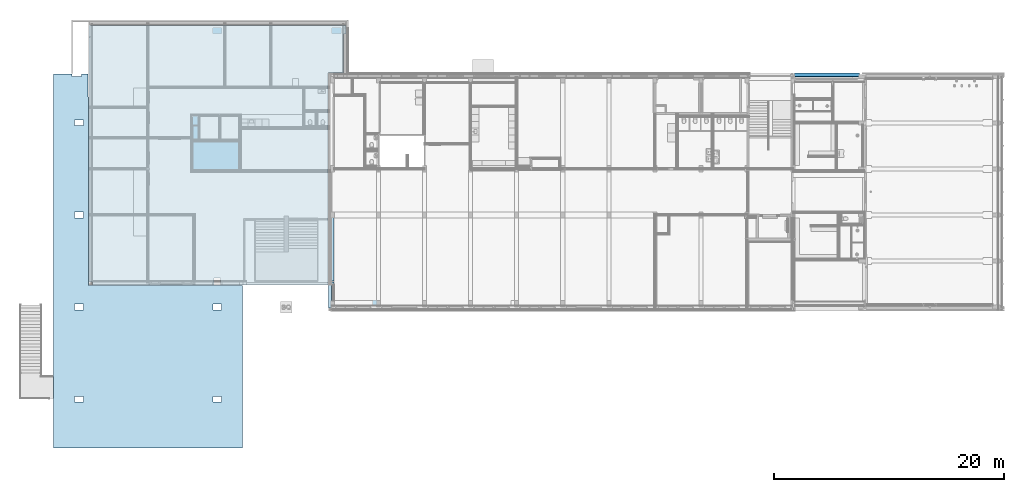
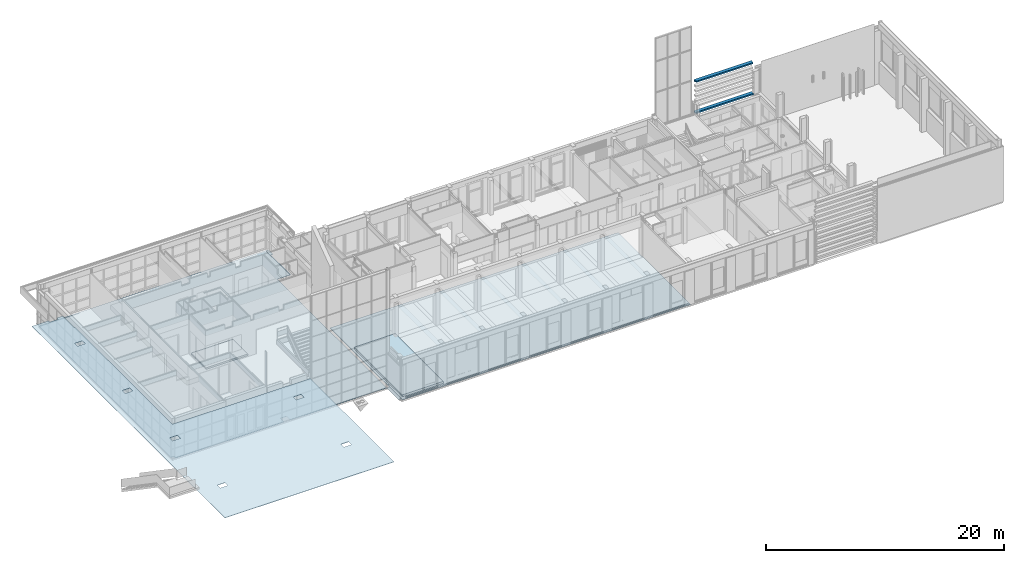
# One storey, part 13 of 109: 7 slabs, 2 beams.
"""IFC2X3 building model written with IfcOpenShell, lengths in millimetres."""

from ifc_helpers import new_model, entity, si_unit, converted_unit, derived_unit, money_unit, direction, frame, origin_with_axes, place, context, subcontext, project, spatial, faceted_brep, material, type_object, element, save


model = new_model("IFC2X3")

# Units and contexts
model_context = context("Model", 3, precision=0.01, world=origin_with_axes(), true_north=direction((0.0, 1.0)))
body_context = subcontext(model_context, "Body", "Model", "MODEL_VIEW")
ifc_project = project(units=[si_unit("LENGTHUNIT", "METRE", prefix="MILLI"), si_unit("AREAUNIT", "SQUARE_METRE"), si_unit("VOLUMEUNIT", "CUBIC_METRE"), converted_unit("PLANEANGLEUNIT", "DEGREE", entity("IfcPlaneAngleMeasure", 0.0174532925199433), si_unit("PLANEANGLEUNIT", "RADIAN"), dimensions=[0, 0, 0, 0, 0, 0, 0]), money_unit("EUR"), converted_unit("TIMEUNIT", "Year", entity("IfcTimeMeasure", 31557600.0), si_unit("TIMEUNIT", "SECOND"), dimensions=[0, 0, 1, 0, 0, 0, 0]), si_unit("MASSUNIT", "GRAM", prefix="KILO"), si_unit("THERMODYNAMICTEMPERATUREUNIT", "DEGREE_CELSIUS"), si_unit("LUMINOUSINTENSITYUNIT", "LUMEN"), si_unit("ENERGYUNIT", "JOULE", prefix="MEGA"), derived_unit("THERMALCONDUCTANCEUNIT", [(si_unit("POWERUNIT", "WATT"), 1), (si_unit("LENGTHUNIT", "METRE"), -1), (si_unit("THERMODYNAMICTEMPERATUREUNIT", "KELVIN"), -1)]), derived_unit("SPECIFICHEATCAPACITYUNIT", [(si_unit("ENERGYUNIT", "JOULE"), 1), (si_unit("MASSUNIT", "GRAM", prefix="KILO"), -1), (si_unit("THERMODYNAMICTEMPERATUREUNIT", "KELVIN"), -1)]), derived_unit("MASSDENSITYUNIT", [(si_unit("MASSUNIT", "GRAM", prefix="KILO"), 1), (si_unit("VOLUMEUNIT", "CUBIC_METRE"), -1)])], contexts=[model_context])

# Site, building, storey
site_placement = place(None, origin_with_axes())
site = spatial("IfcSite", under=ifc_project, at=site_placement, Name="<site naam>", CompositionType="ELEMENT")
building_placement = place(site_placement, origin_with_axes())
building = spatial("IfcBuilding", under=site, at=building_placement, Name="<Naam gebouw>", CompositionType="ELEMENT")
storey_placement = place(building_placement, origin_with_axes())
storey = spatial("IfcBuildingStorey", under=building, at=storey_placement, Name="00 Begane grond", CompositionType="ELEMENT", Elevation=0.0)

# Beams
ifc_material_1 = material(Name="beton")
beam_type = type_object("IfcBeamType", Name="beton 335 x 150", PredefinedType="BEAM")
beam_1_placement = place(storey_placement, frame((52105.00000000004, 20324.9999975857, 3000.0), z_axis=(0.0, 0.0, 1.0), x_axis=(0.0, -1.0, 0.0)))
element("IfcBeam", 1, at=beam_1_placement, inside=storey, type_object=beam_type, material=ifc_material_1, Name="41_Balk_beton", ObjectType="BEAM", context=body_context, shape_type="Brep", body=[
    faceted_brep([(0.0, 0.0, 149.9999999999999), (324.9999975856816, 0.0, 149.9999999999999), (324.9999975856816, 5640.499069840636, 149.9999999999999), (0.0, 5640.499069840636, 149.9999999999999), (0.0, 0.0, 0.0), (324.9999975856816, 0.0, 0.0), (324.9999975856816, 5640.499069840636, 0.0), (0.0, 5640.499069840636, 0.0)], [[[0, 1, 2, 3]], [[4, 5, 1, 0]], [[5, 6, 2, 1]], [[3, 2, 6, 7]], [[4, 0, 3, 7]], [[7, 6, 5, 4]]]),
])
beam_2_placement = place(storey_placement, frame((52105.00000000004, 20324.9999975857, 6187.5), z_axis=(0.0, 0.0, 1.0), x_axis=(0.0, -1.0, 0.0)))
element("IfcBeam", 2, at=beam_2_placement, inside=storey, type_object=beam_type, material=ifc_material_1, Name="41_Balk_beton", ObjectType="BEAM", context=body_context, shape_type="Brep", body=[
    faceted_brep([(217.3255014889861, 70.00002419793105, 150.0000000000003), (324.999975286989, 70.00002419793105, 150.0000000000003), (324.999975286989, 0.0, 150.0000000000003), (335.0000000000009, 0.0, 150.0000000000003), (335.0000000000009, 5570.0, 150.0000000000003), (59.99999758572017, 5570.0, 150.0000000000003), (59.99999758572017, 5640.499069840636, 150.0000000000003), (0.0, 5640.499069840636, 150.0000000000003), (0.0, 0.0, 150.0000000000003), (217.3255014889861, 0.0, 150.0000000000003), (324.999975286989, 70.00002419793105, 127.4999999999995), (217.3255014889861, 70.00002419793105, 0.0), (324.999975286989, 70.00002419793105, 0.0), (324.999975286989, 0.0, 127.4999999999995), (335.0000000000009, 0.0, 127.4999999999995), (335.0000000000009, 5570.0, 127.4999999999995), (324.9999975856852, 5570.0, 127.4999999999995), (324.9999975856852, 5570.0, 0.0), (59.99999758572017, 5570.0, 0.0), (59.99999758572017, 5640.499069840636, 0.0), (0.0, 5640.499069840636, 0.0), (0.0, 0.0, 0.0), (217.3255014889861, 0.0, 0.0)], [[[0, 1, 2, 3, 4, 5, 6, 7, 8, 9]], [[10, 1, 0, 11, 12]], [[13, 2, 1, 10]], [[3, 2, 13, 14]], [[4, 3, 14, 15]], [[4, 15, 16, 17, 18, 5]], [[6, 5, 18, 19]], [[19, 20, 7, 6]], [[7, 20, 21, 8]], [[21, 22, 9, 8]], [[11, 0, 9, 22]], [[12, 11, 22, 21, 20, 19, 18, 17]], [[16, 10, 12, 17]], [[14, 13, 10, 16, 15]]]),
])

# Slabs
ifc_material_2 = material(Name="Buitenplafond cf. K&M-staat")
slab_type_1 = type_object("IfcSlabType", Name="GA-11 40", PredefinedType="NOTDEFINED")
slab_1_placement = place(storey_placement, frame((-12215.0000024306, -12214.99009052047, 3560.000003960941), z_axis=(0.0, 0.0, 1.0), x_axis=(1.0, 0.0, 0.0)))
element("IfcSlab", 3, at=slab_1_placement, inside=storey, type_object=slab_type_1, material=ifc_material_2, Name="45_Vloer_GA-11", PredefinedType="NOTDEFINED", context=body_context, shape_type="Brep", body=[
    faceted_brep([(2980.000002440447, 32429.99009294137, 0.0), (2410.924631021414, 32429.99009294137, 0.0), (2410.924631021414, 32429.99009294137, 40.00000000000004), (2980.000002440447, 32429.99009294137, 40.00000000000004), (1610.924631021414, 32214.99009052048, 0.0), (2410.924631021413, 32214.99009052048, 0.0), (2986.61187938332, 30454.74443336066, 0.0), (3054.500002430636, 30454.97167998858, 0.0), (3054.500002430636, 19599.05475432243, 0.0), (3052.14067671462, 14094.99009052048, 0.0), (16430.04418767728, 14094.99009052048, 0.0), (16430.04418767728, 0.0, 0.0), (0.0, 0.0, 0.0), (0.0, 32429.99009294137, 0.0), (1610.924626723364, 32429.99009294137, 0.0), (1840.000002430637, 3964.990090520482, 0.0), (2590.000002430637, 3964.990090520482, 0.0), (2590.000002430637, 4464.990090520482, 0.0), (1840.000002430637, 4464.990090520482, 0.0), (14590.00000243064, 4464.990090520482, 0.0), (13840.00000243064, 4464.990090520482, 0.0), (13840.00000243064, 3964.990090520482, 0.0), (14590.00000243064, 3964.990090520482, 0.0), (13840.00000243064, 12464.99009052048, 0.0), (13840.00000243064, 11964.99009052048, 0.0), (14590.00000243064, 11964.99009052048, 0.0), (14590.00000243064, 12464.99009052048, 0.0), (2590.000002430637, 12464.99009052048, 0.0), (1840.000002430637, 12464.99009052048, 0.0), (1840.000002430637, 11964.99009052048, 0.0), (2590.000002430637, 11964.99009052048, 0.0), (2590.000002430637, 20464.99009052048, 0.0), (1840.000002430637, 20464.99009052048, 0.0), (1840.000002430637, 19964.99009052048, 0.0), (2590.000002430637, 19964.99009052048, 0.0), (2590.000002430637, 28464.99009052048, 0.0), (1840.000002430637, 28464.99009052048, 0.0), (1840.000002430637, 27964.99009052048, 0.0), (2590.000002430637, 27964.99009052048, 0.0), (2410.924631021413, 32214.99009052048, 40.00000000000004), (1610.924631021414, 32214.99009052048, 40.00000000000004), (1610.924626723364, 32429.99009294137, 40.00000000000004), (0.0, 32429.99009294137, 40.00000000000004), (0.0, 0.0, 40.00000000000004), (16430.04418767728, 0.0, 40.00000000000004), (16430.04418767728, 14094.99009052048, 40.00000000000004), (3052.14067671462, 14094.99009052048, 40.00000000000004), (3054.500002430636, 19599.05475432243, 40.00000000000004), (3054.500002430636, 30454.97167998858, 40.00000000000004), (2986.61187938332, 30454.74443336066, 40.00000000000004), (2590.000002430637, 4464.990090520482, 40.00000000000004), (2590.000002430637, 3964.990090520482, 40.00000000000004), (1840.000002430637, 3964.990090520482, 40.00000000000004), (1840.000002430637, 4464.990090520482, 40.00000000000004), (13840.00000243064, 3964.990090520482, 40.00000000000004), (13840.00000243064, 4464.990090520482, 40.00000000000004), (14590.00000243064, 4464.990090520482, 40.00000000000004), (14590.00000243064, 3964.990090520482, 40.00000000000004), (14590.00000243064, 11964.99009052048, 40.00000000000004), (13840.00000243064, 11964.99009052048, 40.00000000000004), (13840.00000243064, 12464.99009052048, 40.00000000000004), (14590.00000243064, 12464.99009052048, 40.00000000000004), (1840.000002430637, 11964.99009052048, 40.00000000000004), (1840.000002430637, 12464.99009052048, 40.00000000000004), (2590.000002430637, 12464.99009052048, 40.00000000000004), (2590.000002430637, 11964.99009052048, 40.00000000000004), (1840.000002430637, 19964.99009052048, 40.00000000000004), (1840.000002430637, 20464.99009052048, 40.00000000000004), (2590.000002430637, 20464.99009052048, 40.00000000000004), (2590.000002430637, 19964.99009052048, 40.00000000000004), (1840.000002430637, 27964.99009052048, 40.00000000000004), (1840.000002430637, 28464.99009052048, 40.00000000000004), (2590.000002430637, 28464.99009052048, 40.00000000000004), (2590.000002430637, 27964.99009052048, 40.00000000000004)], [[[0, 1, 2, 3]], [[4, 5, 1, 0, 6, 7, 8, 9, 10, 11, 12, 13, 14], [15, 16, 17, 18], [19, 20, 21, 22], [23, 24, 25, 26], [27, 28, 29, 30], [31, 32, 33, 34], [35, 36, 37, 38]], [[5, 39, 2, 1]], [[39, 40, 41, 42, 43, 44, 45, 46, 47, 48, 49, 3, 2], [50, 51, 52, 53], [54, 55, 56, 57], [58, 59, 60, 61], [62, 63, 64, 65], [66, 67, 68, 69], [70, 71, 72, 73]], [[0, 3, 49, 6]], [[4, 40, 39, 5]], [[6, 49, 48, 7]], [[47, 8, 7, 48]], [[46, 9, 8, 47]], [[9, 46, 45, 10]], [[10, 45, 44, 11]], [[11, 44, 43, 12]], [[12, 43, 42, 13]], [[42, 41, 14, 13]], [[4, 14, 41, 40]], [[15, 52, 51, 16]], [[16, 51, 50, 17]], [[17, 50, 53, 18]], [[18, 53, 52, 15]], [[19, 56, 55, 20]], [[20, 55, 54, 21]], [[21, 54, 57, 22]], [[22, 57, 56, 19]], [[23, 60, 59, 24]], [[24, 59, 58, 25]], [[25, 58, 61, 26]], [[26, 61, 60, 23]], [[27, 64, 63, 28]], [[28, 63, 62, 29]], [[29, 62, 65, 30]], [[30, 65, 64, 27]], [[31, 68, 67, 32]], [[32, 67, 66, 33]], [[33, 66, 69, 34]], [[34, 69, 68, 31]], [[35, 72, 71, 36]], [[36, 71, 70, 37]], [[37, 70, 73, 38]], [[38, 73, 72, 35]]]),
])
slab_type_2 = type_object("IfcSlabType", Name="beton 30", PredefinedType="NOTDEFINED")
slab_2_placement = place(storey_placement, frame((11665.00000000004, 1930.00000000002, -30.0), z_axis=(0.0, 0.0, 1.0), x_axis=(1.0, 0.0, 0.0)))
element("IfcSlab", 4, at=slab_2_placement, inside=storey, type_object=slab_type_2, material=ifc_material_1, Name="23_Vloer_beton", PredefinedType="NOTDEFINED", context=body_context, shape_type="Brep", body=[
    faceted_brep([(0.0, -1995.000000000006, 30.0), (0.0, 0.0, 30.0), (0.0, 0.0, 0.0), (0.0, -1995.000000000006, 0.0), (269.999999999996, -1995.000000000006, 30.0), (269.999999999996, 0.0, 30.0), (269.999999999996, 0.0, 0.0), (269.999999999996, -1995.000000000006, 0.0)], [[[0, 1, 2, 3]], [[4, 5, 1, 0]], [[1, 5, 6, 2]], [[7, 3, 2, 6]], [[4, 0, 3, 7]], [[5, 4, 7, 6]]]),
])
slab_3_placement = place(storey_placement, frame((-9154.999999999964, 1930.00656230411, -30.0), z_axis=(0.0, 0.0, 1.0), x_axis=(1.0, 0.0, 0.0)))
element("IfcSlab", 5, at=slab_3_placement, inside=storey, type_object=slab_type_2, material=ifc_material_1, Name="23_Vloer_beton", PredefinedType="NOTDEFINED", context=body_context, shape_type="Brep", body=[
    faceted_brep([(0.0, 255.6670059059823, 30.0), (305.0000006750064, 255.6670058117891, 30.0), (305.0000005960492, 0.0, 30.0), (10854.9999995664, 0.0, 30.0), (10854.99999945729, 594.993437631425, 30.0), (11454.99999945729, 594.9934377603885, 30.0), (11454.99999958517, 0.0, 30.0), (20769.99999903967, 0.0, 30.0), (20769.99999903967, 18404.99999999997, 30.0), (22130.00000000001, 18404.99999999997, 30.0), (22130.00000000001, 21769.9934376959, 30.0), (22330.00000000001, 21769.9934376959, 30.0), (22330.00000000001, 22520.0, 30.0), (0.0, 22519.9934376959, 30.0), (305.0000006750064, 255.6670058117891, 0.0), (0.0, 255.6670059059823, 0.0), (305.0000005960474, 0.0, 0.0), (10854.9999994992, 0.0, 0.0), (10854.99999945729, 594.993437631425, 0.0), (11454.99999945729, 594.9934377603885, 0.0), (11454.99999958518, 0.0, 0.0), (20769.99999903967, 0.0, 0.0), (20769.99999903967, 18404.99999999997, 0.0), (22130.00000000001, 18404.99999999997, 0.0), (22130.00000000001, 21769.9934376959, 0.0), (22330.00000000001, 21769.9934376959, 0.0), (22330.00000000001, 22520.0, 0.0), (0.0, 22519.9934376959, 0.0)], [[[0, 1, 2, 3, 4, 5, 6, 7, 8, 9, 10, 11, 12, 13]], [[14, 1, 0, 15]], [[16, 2, 1, 14]], [[3, 2, 16, 17]], [[18, 4, 3, 17]], [[19, 5, 4, 18]], [[20, 6, 5, 19]], [[7, 6, 20, 21]], [[8, 7, 21, 22]], [[9, 8, 22, 23]], [[10, 9, 23, 24]], [[11, 10, 24, 25]], [[12, 11, 25, 26]], [[13, 12, 26, 27]], [[27, 15, 0, 13]], [[16, 14, 15, 27, 26, 25, 24, 23, 22, 21, 20, 19, 18, 17]]]),
])
slab_4_placement = place(storey_placement, frame((-9154.99999999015, 1930.000000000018, -30.0), z_axis=(0.0, 0.0, 1.0), x_axis=(1.0, 0.0, 0.0)))
element("IfcSlab", 6, at=slab_4_placement, inside=storey, type_object=slab_type_2, material=ifc_material_1, Name="23_Vloer_beton", PredefinedType="NOTDEFINED", context=body_context, shape_type="Brep", body=[
    faceted_brep([(0.0, 255.6735682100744, 30.0), (305.000000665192, 255.6735681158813, 30.0), (305.0000005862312, 0.0, 30.0), (10854.99999955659, 0.0, 30.0), (10854.99999944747, 594.999999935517, 30.0), (11454.99999944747, 595.0000000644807, 30.0), (11454.99999957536, 0.0, 30.0), (20819.99999999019, 0.0, 30.0), (20819.99999999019, 18404.99999999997, 30.0), (22060.00002413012, 18404.99999999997, 30.0), (22060.00002413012, 22520.0, 30.0), (3969.592936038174, 22520.0, 30.0), (3969.592936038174, 22401.02950560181, 30.0), (0.0, 22401.02950560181, 30.0), (305.000000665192, 255.6735681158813, 0.0), (0.0, 255.6735682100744, 0.0), (305.0000005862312, 0.0, 0.0), (10854.99999948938, 0.0, 0.0), (10854.99999944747, 594.999999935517, 0.0), (11454.99999944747, 595.0000000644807, 0.0), (11454.99999957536, 0.0, 0.0), (20819.99999999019, 0.0, 0.0), (20819.99999999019, 18404.99999999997, 0.0), (22060.00002413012, 18404.99999999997, 0.0), (22060.00002413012, 22520.0, 0.0), (3969.592936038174, 22520.0, 0.0), (3969.592936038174, 22401.02950560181, 0.0), (0.0, 22401.02950560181, 0.0)], [[[0, 1, 2, 3, 4, 5, 6, 7, 8, 9, 10, 11, 12, 13]], [[14, 1, 0, 15]], [[16, 2, 1, 14]], [[3, 2, 16, 17]], [[18, 4, 3, 17]], [[19, 5, 4, 18]], [[20, 6, 5, 19]], [[7, 6, 20, 21]], [[8, 7, 21, 22]], [[9, 8, 22, 23]], [[10, 9, 23, 24]], [[11, 10, 24, 25]], [[12, 11, 25, 26]], [[13, 12, 26, 27]], [[27, 15, 0, 13]], [[16, 14, 15, 27, 26, 25, 24, 23, 22, 21, 20, 19, 18, 17]]]),
])
ifc_material_3 = material(Name="ALG - ALGEMEEN")
slab_type_3 = type_object("IfcSlabType", Name="ALG - ALGEMEEN 200", PredefinedType="NOTDEFINED")
slab_5_placement = place(storey_placement, frame((12150.00003775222, 74.98310846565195, 0.0), z_axis=(0.0, 0.0, 1.0), x_axis=(1.0, 0.0, 0.0)))
element("IfcSlab", 7, at=slab_5_placement, inside=storey, type_object=slab_type_3, material=ifc_material_3, Name="23_Vloer_ALG", PredefinedType="NOTDEFINED", context=body_context, shape_type="Brep", body=[
    faceted_brep([(0.0, 8142.016891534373, 199.9999999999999), (0.0, 47.0168915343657, 200.0000000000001), (3967.005467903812, 47.01689153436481, 200.0000000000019), (3967.005467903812, 8142.016891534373, 199.9999999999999), (0.0, 8142.016891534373, 0.0), (0.0, 47.0168915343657, 0.0), (3967.005467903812, 47.01689153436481, 0.0), (3967.005467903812, 8142.016891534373, 0.0)], [[[0, 1, 2, 3]], [[4, 5, 1, 0]], [[5, 6, 2, 1]], [[3, 2, 6, 7]], [[0, 3, 7, 4]], [[7, 6, 5, 4]]]),
])
slab_6_placement = place(storey_placement, frame((-124.9999999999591, 11875.00000000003, 150.0), z_axis=(0.0, 0.0, 1.0), x_axis=(1.0, 0.0, 0.0)))
element("IfcSlab", 8, at=slab_6_placement, inside=storey, type_object=slab_type_3, material=ifc_material_3, Name="23_Vloer_ALG", PredefinedType="NOTDEFINED", context=body_context, shape_type="Brep", body=[
    faceted_brep([(0.0, 0.0, 0.0), (0.0, 0.0, -200.0), (4049.999999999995, 0.0, -200.0), (4049.999999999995, 0.0, 0.0), (0.0, 2500.000000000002, 0.0), (0.0, 2500.000000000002, -200.0), (4049.999999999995, 2500.000000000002, -200.0), (4049.999999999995, 2500.000000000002, 0.0)], [[[0, 1, 2, 3]], [[4, 5, 1, 0]], [[2, 1, 5, 6]], [[3, 2, 6, 7]], [[4, 0, 3, 7]], [[7, 6, 5, 4]]]),
])
ifc_material_4 = material(Name="Zwevende dekvloer")
slab_type_4 = type_object("IfcSlabType", Name="Zwevende dekvloer 50", PredefinedType="NOTDEFINED")
slab_7_placement = place(storey_placement, frame((11935.00000000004, -224.9934376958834, 0.0), z_axis=(0.0, 0.0, 1.0), x_axis=(1.0, 0.0, 0.0)))
element("IfcSlab", 9, at=slab_7_placement, inside=storey, type_object=slab_type_4, material=ifc_material_4, Name="23_Vloer_Zwevende", PredefinedType="NOTDEFINED", context=body_context, shape_type="Brep", body=[
    faceted_brep([(27339.99892468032, 110.152171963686, 0.0), (27339.99892468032, 110.152171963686, -10.00000000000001), (27340.99892468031, 110.152551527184, -10.00000000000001), (27340.99892468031, 110.152551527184, 0.0), (27990.0, 110.398888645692, 0.0), (27990.0, 110.3988886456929, -50.00000000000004), (365.7460196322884, 99.91373016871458, -50.00000000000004), (365.7460196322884, 99.91373016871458, 0.0), (3339.998924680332, 101.0426480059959, 0.0), (3339.998924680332, 101.0426480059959, -10.00000000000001), (3340.998924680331, 101.0430275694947, -10.00000000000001), (3340.998924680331, 101.0430275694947, 0.0), (4218.999995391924, 101.3762847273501, 0.0), (4218.999995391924, 101.3762847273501, -10.00000000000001), (4219.999995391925, 101.3766642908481, -10.00000000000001), (4219.999995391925, 101.3766642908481, 0.0), (7339.998924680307, 102.5609019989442, 0.0), (7339.998924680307, 102.5609019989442, -10.00000000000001), (7340.998924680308, 102.5612815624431, -10.00000000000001), (7340.998924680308, 102.5612815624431, 0.0), (8218.9999953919, 102.8945387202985, 0.0), (8218.9999953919, 102.8945387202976, -10.00000000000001), (8219.9999953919, 102.8949182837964, -10.00000000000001), (8219.9999953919, 102.8949182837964, 0.0), (11339.9989246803, 104.0791559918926, 0.0), (11339.9989246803, 104.0791559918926, -10.00000000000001), (11340.99892468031, 104.0795355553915, -10.00000000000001), (11340.99892468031, 104.0795355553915, 0.0), (12218.9999953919, 104.4127927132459, 0.0), (12218.9999953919, 104.4127927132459, -10.00000000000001), (12219.9999953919, 104.4131722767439, -10.00000000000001), (12219.9999953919, 104.4131722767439, 0.0), (15340.01838824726, 105.5974173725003, 0.0), (15340.01838824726, 105.5974173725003, -10.00000000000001), (15341.01838824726, 105.5977969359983, -10.00000000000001), (15341.01838824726, 105.5977969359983, 0.0), (16219.01945895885, 105.9310540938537, 0.0), (16219.01945895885, 105.9310540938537, -10.00000000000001), (16220.01945895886, 105.9314336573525, -10.00000000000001), (16220.01945895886, 105.9314336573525, 0.0), (19339.9989246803, 107.1156639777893, 0.0), (19339.9989246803, 107.1156639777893, -10.00000000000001), (19340.99892468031, 107.1160435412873, -10.00000000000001), (19340.99892468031, 107.1160435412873, 0.0), (20218.9999953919, 107.4493006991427, 0.0), (20218.9999953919, 107.4493006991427, -10.00000000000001), (20219.9999953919, 107.4496802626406, -10.00000000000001), (20219.9999953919, 107.4496802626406, 0.0), (23339.99892468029, 108.6339179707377, 0.0), (23339.99892468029, 108.6339179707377, -10.00000000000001), (23340.99892468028, 108.6342975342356, -10.00000000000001), (23340.99892468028, 108.6342975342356, 0.0), (24218.99999539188, 108.967554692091, 0.0), (24218.99999539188, 108.967554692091, -10.00000000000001), (24219.99999539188, 108.967934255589, -10.00000000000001), (24219.99999539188, 108.967934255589, 0.0), (27339.99892468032, 0.0, -10.00000000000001), (27339.99892468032, 0.0, 0.0), (27340.99892468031, 0.0, -10.00000000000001), (27340.99892468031, 0.0, 0.0), (27990.0, 0.0, 0.0), (27990.0, 0.0, -50.00000000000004), (0.0, 0.0, -50.00000000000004), (0.0, 2399.993437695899, -50.00000000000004), (365.4461342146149, 2399.993437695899, -50.00000000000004), (365.4461342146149, 1799.993437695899, -50.00000000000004), (240.4461409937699, 1799.993437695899, -50.00000000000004), (240.4461409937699, 1714.993437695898, -50.00000000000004), (240.4461409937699, 917.2169118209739, -50.00000000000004), (325.4461362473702, 917.2169118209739, -50.00000000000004), (365.4358011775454, 917.2169118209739, -50.00000000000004), (365.7137567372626, 184.9137240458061, -50.00000000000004), (365.7137567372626, 184.9137240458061, 0.0), (0.0, 0.0, 0.0), (3339.998924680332, 0.0, 0.0), (365.4358011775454, 917.2169118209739, 0.0), (325.4461362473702, 917.2169118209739, 0.0), (240.4461409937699, 917.2169118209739, 0.0), (240.4461409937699, 1714.993437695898, 0.0), (240.4461409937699, 1799.993437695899, 0.0), (365.4461342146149, 1799.993437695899, 0.0), (365.4461342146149, 2399.993437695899, 0.0), (0.0, 2399.993437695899, 0.0), (3339.998924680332, 0.0, -10.00000000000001), (3340.998924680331, 0.0, -10.00000000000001), (3340.998924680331, 0.0, 0.0), (4218.999995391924, 0.0, 0.0), (4218.999995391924, 0.0, -10.00000000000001), (4219.999995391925, 0.0, -10.00000000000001), (4219.999995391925, 0.0, 0.0), (7339.998924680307, 0.0, 0.0), (7339.998924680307, 0.0, -10.00000000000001), (7340.998924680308, 0.0, -10.00000000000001), (7340.998924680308, 0.0, 0.0), (8218.9999953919, 0.0, 0.0), (8218.9999953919, 0.0, -10.00000000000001), (8219.9999953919, 0.0, -10.00000000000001), (8219.9999953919, 0.0, 0.0), (11339.9989246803, 0.0, 0.0), (11339.9989246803, 0.0, -10.00000000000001), (11340.99892468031, 0.0, -10.00000000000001), (11340.99892468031, 0.0, 0.0), (12218.9999953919, 0.0, 0.0), (12218.9999953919, 0.0, -10.00000000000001), (12219.9999953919, 0.0, -10.00000000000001), (12219.9999953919, 0.0, 0.0), (15340.01838824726, 0.0, 0.0), (15340.01838824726, 0.0, -10.00000000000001), (15341.01838824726, 0.0, -10.00000000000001), (15341.01838824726, 0.0, 0.0), (16219.01945895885, 0.0, 0.0), (16219.01945895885, 0.0, -10.00000000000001), (16220.01945895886, 0.0, -10.00000000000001), (16220.01945895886, 0.0, 0.0), (19339.9989246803, 0.0, 0.0), (19339.9989246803, 0.0, -10.00000000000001), (19340.99892468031, 0.0, -10.00000000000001), (19340.99892468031, 0.0, 0.0), (20218.9999953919, 0.0, 0.0), (20218.9999953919, 0.0, -10.00000000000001), (20219.9999953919, 0.0, -10.00000000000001), (20219.9999953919, 0.0, 0.0), (23339.99892468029, 0.0, 0.0), (23339.99892468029, 0.0, -10.00000000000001), (23340.99892468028, 0.0, -10.00000000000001), (23340.99892468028, 0.0, 0.0), (24218.99999539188, 0.0, 0.0), (24218.99999539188, 0.0, -10.00000000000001), (24219.99999539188, 0.0, -10.00000000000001), (24219.99999539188, 0.0, 0.0)], [[[0, 1, 2, 3, 4, 5, 6, 7, 8, 9, 10, 11, 12, 13, 14, 15, 16, 17, 18, 19, 20, 21, 22, 23, 24, 25, 26, 27, 28, 29, 30, 31, 32, 33, 34, 35, 36, 37, 38, 39, 40, 41, 42, 43, 44, 45, 46, 47, 48, 49, 50, 51, 52, 53, 54, 55]], [[56, 1, 0, 57]], [[58, 2, 1, 56]], [[58, 59, 3, 2]], [[4, 3, 59, 60]], [[60, 61, 5, 4]], [[61, 62, 63, 64, 65, 66, 67, 68, 69, 70, 71, 6, 5]], [[7, 6, 71, 72]], [[73, 74, 8, 7, 72, 75, 76, 77, 78, 79, 80, 81, 82]], [[83, 9, 8, 74]], [[84, 10, 9, 83]], [[84, 85, 11, 10]], [[85, 86, 12, 11]], [[87, 13, 12, 86]], [[88, 14, 13, 87]], [[88, 89, 15, 14]], [[16, 15, 89, 90]], [[91, 17, 16, 90]], [[92, 18, 17, 91]], [[92, 93, 19, 18]], [[93, 94, 20, 19]], [[95, 21, 20, 94]], [[96, 22, 21, 95]], [[96, 97, 23, 22]], [[24, 23, 97, 98]], [[99, 25, 24, 98]], [[100, 26, 25, 99]], [[100, 101, 27, 26]], [[101, 102, 28, 27]], [[103, 29, 28, 102]], [[104, 30, 29, 103]], [[104, 105, 31, 30]], [[105, 106, 32, 31]], [[107, 33, 32, 106]], [[108, 34, 33, 107]], [[108, 109, 35, 34]], [[109, 110, 36, 35]], [[111, 37, 36, 110]], [[112, 38, 37, 111]], [[112, 113, 39, 38]], [[40, 39, 113, 114]], [[115, 41, 40, 114]], [[116, 42, 41, 115]], [[116, 117, 43, 42]], [[117, 118, 44, 43]], [[119, 45, 44, 118]], [[120, 46, 45, 119]], [[120, 121, 47, 46]], [[121, 122, 48, 47]], [[123, 49, 48, 122]], [[124, 50, 49, 123]], [[124, 125, 51, 50]], [[125, 126, 52, 51]], [[127, 53, 52, 126]], [[128, 54, 53, 127]], [[128, 129, 55, 54]], [[129, 57, 0, 55]], [[58, 56, 57, 129, 128, 127, 126, 125, 124, 123, 122, 121, 120, 119, 118, 117, 116, 115, 114, 113, 112, 111, 110, 109, 108, 107, 106, 105, 104, 103, 102, 101, 100, 99, 98, 97, 96, 95, 94, 93, 92, 91, 90, 89, 88, 87, 86, 85, 84, 83, 74, 73, 62, 61, 60, 59]], [[62, 73, 82, 63]], [[64, 63, 82, 81]], [[80, 65, 64, 81]], [[79, 66, 65, 80]], [[66, 79, 78, 67]], [[77, 68, 67, 78]], [[68, 77, 76, 69]], [[70, 69, 76, 75]], [[72, 71, 70, 75]]]),
    faceted_brep([(0.0, 12149.96819493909, 0.0), (0.0, 2484.993437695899, 0.0), (365.4461342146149, 2484.993437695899, 0.0), (450.4461342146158, 2484.993437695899, 0.0), (450.446134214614, 1714.993437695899, 0.0), (365.4461342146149, 1714.993437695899, 0.0), (325.4461409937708, 1714.993437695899, 0.0), (325.4461367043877, 1002.216911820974, 0.0), (365.4035382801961, 1002.216911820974, 0.0), (450.4035444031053, 1002.216911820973, 0.0), (450.7137506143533, 184.9459869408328, 0.0), (27990.0, 195.3988947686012, 0.0), (27990.0, 12149.96819493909, 0.0), (0.0, 12149.96819493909, -50.00000000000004), (0.0, 2484.993437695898, -50.00000000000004), (365.4461342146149, 2484.993437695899, -50.00000000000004), (450.4461342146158, 2484.993437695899, -50.00000000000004), (450.446134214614, 1714.993437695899, -50.00000000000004), (365.4461342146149, 1714.993437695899, -50.00000000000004), (325.4461409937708, 1714.993437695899, -49.99999999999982), (325.4461367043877, 1002.216911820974, -50.00000000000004), (365.4035382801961, 1002.216911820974, -49.99999999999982), (450.4035444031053, 1002.216911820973, -50.00000000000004), (450.7137506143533, 184.9459869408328, -50.00000000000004), (27990.0, 195.3988947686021, -50.00000000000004), (27990.0, 12149.96819493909, -50.00000000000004)], [[[0, 1, 2, 3, 4, 5, 6, 7, 8, 9, 10, 11, 12]], [[13, 14, 1, 0]], [[14, 15, 2, 1]], [[3, 2, 15, 16]], [[17, 4, 3, 16]], [[17, 18, 5, 4]], [[18, 19, 6, 5]], [[19, 20, 7, 6]], [[20, 21, 8, 7]], [[9, 8, 21, 22]], [[22, 23, 10, 9]], [[11, 10, 23, 24]], [[12, 11, 24, 25]], [[0, 12, 25, 13]], [[16, 15, 14, 13, 25, 24, 23, 22, 21, 20, 19, 18, 17]]]),
])

save(model, "model.ifc")
